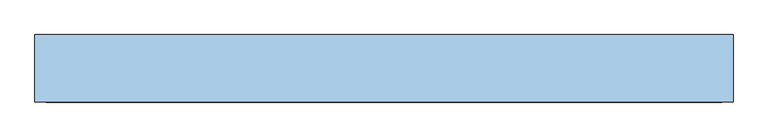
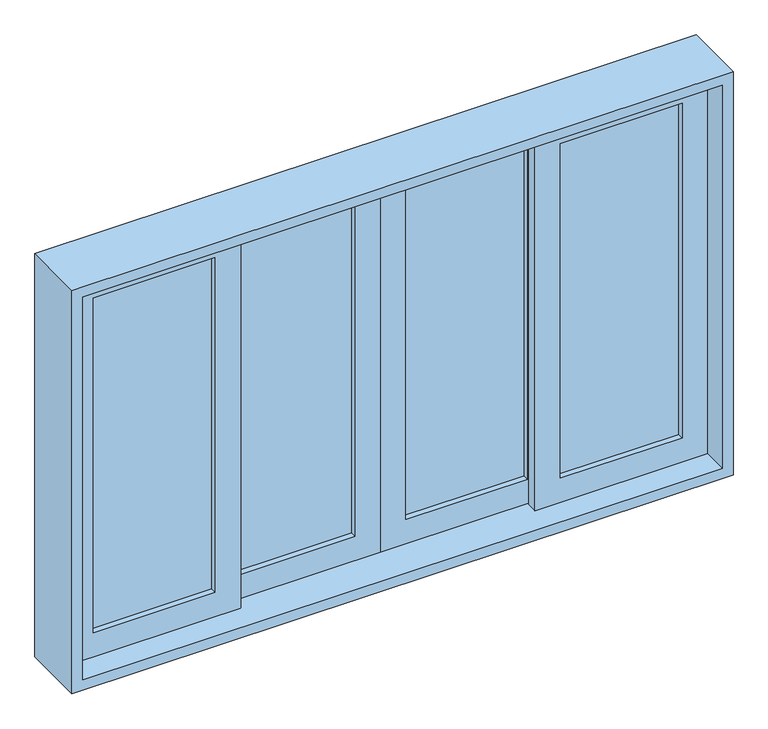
"""IFC4 building model written with IfcOpenShell, lengths in millimetres: window geometry, JANELA 4  PAINÉIS VIDRO : JANELA 4  PAINÉIS VIDRO."""

from ifc_helpers import new_model, si_unit, point, frame, frame_2d, origin, place, context, project, spatial, polyline, circle_curve, trimmed, segment, composite_curve, outline, extrude, source, transform, mapped, element, save


def window_ed8a4b66(model_context):
    return source(origin(), model_context, "Body", "SweptSolid", [
        extrude(outline(composite_curve([segment(trimmed(circle_curve(frame_2d((1390.0, -47.9376293)), 10.0), [point((1400.0, -47.9376293))], [point((1390.0, -57.9376293))], False, "CARTESIAN"), True, "CONTINUOUS"), segment(polyline([(1390.0, -57.9376293), (1210.0, -57.9376293)]), True, "CONTINUOUS"), segment(trimmed(circle_curve(frame_2d((1210.0, -47.9376293)), 10.0), [point((1210.0, -57.9376293))], [point((1200.0, -47.9376293))], False, "CARTESIAN"), True, "CONTINUOUS"), segment(polyline([(1200.0, -47.9376293), (1200.0, -27.9376293)]), True, "CONTINUOUS"), segment(trimmed(circle_curve(frame_2d((1210.0, -27.9376293)), 10.0), [point((1200.0, -27.9376293))], [point((1210.0, -17.9376293))], False, "CARTESIAN"), True, "CONTINUOUS"), segment(polyline([(1210.0, -17.9376293), (1390.0, -17.9376293)]), True, "CONTINUOUS"), segment(trimmed(circle_curve(frame_2d((1390.0, -27.9376293)), 10.0), [point((1390.0, -17.9376293))], [point((1400.0, -27.9376293))], False, "CARTESIAN"), True, "CONTINUOUS"), segment(polyline([(1400.0, -27.9376293), (1400.0, -47.9376293)]), True, "CONTINUOUS")], self_intersect=False), holes=[composite_curve([segment(polyline([(1360.0, -47.9376293), (1360.0, -27.9376293)]), True, "CONTINUOUS"), segment(trimmed(circle_curve(frame_2d((1355.0, -27.9376293)), 5.0), [point((1360.0, -27.9376293))], [point((1355.0, -22.9376293))], True, "CARTESIAN"), True, "CONTINUOUS"), segment(polyline([(1355.0, -22.9376293), (1245.0, -22.9376293)]), True, "CONTINUOUS"), segment(trimmed(circle_curve(frame_2d((1245.0, -27.9376293)), 5.0), [point((1245.0, -22.9376293))], [point((1240.0, -27.9376293))], True, "CARTESIAN"), True, "CONTINUOUS"), segment(polyline([(1240.0, -27.9376293), (1240.0, -47.9376293)]), True, "CONTINUOUS"), segment(trimmed(circle_curve(frame_2d((1245.0, -47.9376293)), 5.0), [point((1240.0, -47.9376293))], [point((1245.0, -52.9376293))], True, "CARTESIAN"), True, "CONTINUOUS"), segment(polyline([(1245.0, -52.9376293), (1355.0, -52.9376293)]), True, "CONTINUOUS"), segment(trimmed(circle_curve(frame_2d((1355.0, -47.9376293)), 5.0), [point((1355.0, -52.9376293))], [point((1360.0, -47.9376293))], True, "CARTESIAN"), True, "CONTINUOUS")], self_intersect=False), composite_curve([segment(trimmed(circle_curve(frame_2d((1385.0, -37.9376293)), 5.0), [point((1385.0, -42.9376293))], [point((1385.0, -32.9376293))], True, "CARTESIAN"), True, "CONTINUOUS"), segment(trimmed(circle_curve(frame_2d((1385.0, -37.9376293)), 5.0), [point((1385.0, -32.9376293))], [point((1385.0, -42.9376293))], True, "CARTESIAN"), True, "CONTINUOUS")], self_intersect=False), composite_curve([segment(trimmed(circle_curve(frame_2d((1215.0, -37.9376293)), 5.0), [point((1215.0, -42.9376293))], [point((1215.0, -32.9376293))], True, "CARTESIAN"), True, "CONTINUOUS"), segment(trimmed(circle_curve(frame_2d((1215.0, -37.9376293)), 5.0), [point((1215.0, -32.9376293))], [point((1215.0, -42.9376293))], True, "CARTESIAN"), True, "CONTINUOUS")], self_intersect=False)]), frame((0.0, 40.0, 0.0), z_axis=(0.0, 1.0, 0.0), x_axis=(0.0, 0.0, 1.0)), (0.0, 0.0, 1.0), 3.0),
        extrude(outline(composite_curve([segment(trimmed(circle_curve(frame_2d((1390.0, 27.9376293)), 10.0), [point((1400.0, 27.9376293))], [point((1390.0, 17.9376293))], False, "CARTESIAN"), True, "CONTINUOUS"), segment(polyline([(1390.0, 17.9376293), (1210.0, 17.9376293)]), True, "CONTINUOUS"), segment(trimmed(circle_curve(frame_2d((1210.0, 27.9376293)), 10.0), [point((1210.0, 17.9376293))], [point((1200.0, 27.9376293))], False, "CARTESIAN"), True, "CONTINUOUS"), segment(polyline([(1200.0, 27.9376293), (1200.0, 47.9376293)]), True, "CONTINUOUS"), segment(trimmed(circle_curve(frame_2d((1210.0, 47.9376293)), 10.0), [point((1200.0, 47.9376293))], [point((1210.0, 57.9376293))], False, "CARTESIAN"), True, "CONTINUOUS"), segment(polyline([(1210.0, 57.9376293), (1390.0, 57.9376293)]), True, "CONTINUOUS"), segment(trimmed(circle_curve(frame_2d((1390.0, 47.9376293)), 10.0), [point((1390.0, 57.9376293))], [point((1400.0, 47.9376293))], False, "CARTESIAN"), True, "CONTINUOUS"), segment(polyline([(1400.0, 47.9376293), (1400.0, 27.9376293)]), True, "CONTINUOUS")], self_intersect=False), holes=[composite_curve([segment(polyline([(1360.0, 27.9376293), (1360.0, 47.9376293)]), True, "CONTINUOUS"), segment(trimmed(circle_curve(frame_2d((1355.0, 47.9376293)), 5.0), [point((1360.0, 47.9376293))], [point((1355.0, 52.9376293))], True, "CARTESIAN"), True, "CONTINUOUS"), segment(polyline([(1355.0, 52.9376293), (1245.0, 52.9376293)]), True, "CONTINUOUS"), segment(trimmed(circle_curve(frame_2d((1245.0, 47.9376293)), 5.0), [point((1245.0, 52.9376293))], [point((1240.0, 47.9376293))], True, "CARTESIAN"), True, "CONTINUOUS"), segment(polyline([(1240.0, 47.9376293), (1240.0, 27.9376293)]), True, "CONTINUOUS"), segment(trimmed(circle_curve(frame_2d((1245.0, 27.9376293)), 5.0), [point((1240.0, 27.9376293))], [point((1245.0, 22.9376293))], True, "CARTESIAN"), True, "CONTINUOUS"), segment(polyline([(1245.0, 22.9376293), (1355.0, 22.9376293)]), True, "CONTINUOUS"), segment(trimmed(circle_curve(frame_2d((1355.0, 27.9376293)), 5.0), [point((1355.0, 22.9376293))], [point((1360.0, 27.9376293))], True, "CARTESIAN"), True, "CONTINUOUS")], self_intersect=False), composite_curve([segment(trimmed(circle_curve(frame_2d((1385.0, 37.9376293)), 5.0), [point((1385.0, 32.9376293))], [point((1385.0, 42.9376293))], True, "CARTESIAN"), True, "CONTINUOUS"), segment(trimmed(circle_curve(frame_2d((1385.0, 37.9376293)), 5.0), [point((1385.0, 42.9376293))], [point((1385.0, 32.9376293))], True, "CARTESIAN"), True, "CONTINUOUS")], self_intersect=False), composite_curve([segment(trimmed(circle_curve(frame_2d((1215.0, 37.9376293)), 5.0), [point((1215.0, 32.9376293))], [point((1215.0, 42.9376293))], True, "CARTESIAN"), True, "CONTINUOUS"), segment(trimmed(circle_curve(frame_2d((1215.0, 37.9376293)), 5.0), [point((1215.0, 42.9376293))], [point((1215.0, 32.9376293))], True, "CARTESIAN"), True, "CONTINUOUS")], self_intersect=False)]), frame((0.0, 40.0, 0.0), z_axis=(0.0, 1.0, 0.0), x_axis=(0.0, 0.0, 1.0)), (0.0, 0.0, 1.0), 3.0),
        extrude(outline(polyline([(-345.0, 34.0835032), (-60.0, 34.0835032), (-60.0, 29.0), (-345.0, 29.0), (-345.0, 34.0835032)])), frame((0.0, 0.0, 885.0), z_axis=(0.0, 0.0, 1.0), x_axis=(1.0, 0.0, 0.0)), (0.0, 0.0, 1.0), 830.0),
        extrude(outline(polyline([(1775.0, -405.0), (825.0, -405.0), (825.0, 0.0), (1775.0, 0.0), (1775.0, -405.0)]), holes=[polyline([(1715.0, -345.0), (1715.0, -60.0), (885.0, -60.0), (885.0, -345.0), (1715.0, -345.0)])]), frame((0.0, 15.0, 0.0), z_axis=(0.0, 1.0, 0.0), x_axis=(0.0, 0.0, 1.0)), (0.0, 0.0, 1.0), 25.0),
        extrude(outline(polyline([(-690.0, 4.0835032), (-405.0, 4.0835032), (-405.0, -1.0), (-690.0, -1.0), (-690.0, 4.0835032)])), frame((0.0, 0.0, 885.0), z_axis=(0.0, 0.0, 1.0), x_axis=(1.0, 0.0, 0.0)), (0.0, 0.0, 1.0), 830.0),
        extrude(outline(polyline([(1775.0, -750.0), (825.0, -750.0), (825.0, -345.0), (1775.0, -345.0), (1775.0, -750.0)]), holes=[polyline([(1715.0, -690.0), (1715.0, -405.0), (885.0, -405.0), (885.0, -690.0), (1715.0, -690.0)])]), frame((0.0, -15.0, 0.0), z_axis=(0.0, 1.0, 0.0), x_axis=(0.0, 0.0, 1.0)), (0.0, 0.0, 1.0), 25.0),
        extrude(outline(polyline([(345.0, 34.0835032), (345.0, 29.0), (60.0, 29.0), (60.0, 34.0835032), (345.0, 34.0835032)])), frame((0.0, 0.0, 885.0), z_axis=(0.0, 0.0, 1.0), x_axis=(1.0, 0.0, 0.0)), (0.0, 0.0, 1.0), 830.0),
        extrude(outline(polyline([(1775.0, 405.0), (1775.0, 0.0), (825.0, 0.0), (825.0, 405.0), (1775.0, 405.0)]), holes=[polyline([(1715.0, 345.0), (885.0, 345.0), (885.0, 60.0), (1715.0, 60.0), (1715.0, 345.0)])]), frame((0.0, 15.0, 0.0), z_axis=(0.0, 1.0, 0.0), x_axis=(0.0, 0.0, 1.0)), (0.0, 0.0, 1.0), 25.0),
        extrude(outline(polyline([(690.0, 4.0835032), (690.0, -1.0), (405.0, -1.0), (405.0, 4.0835032), (690.0, 4.0835032)])), frame((0.0, 0.0, 885.0), z_axis=(0.0, 0.0, 1.0), x_axis=(1.0, 0.0, 0.0)), (0.0, 0.0, 1.0), 830.0),
        extrude(outline(polyline([(1775.0, 750.0), (1775.0, 345.0), (825.0, 345.0), (825.0, 750.0), (1775.0, 750.0)]), holes=[polyline([(1715.0, 690.0), (885.0, 690.0), (885.0, 405.0), (1715.0, 405.0), (1715.0, 690.0)])]), frame((0.0, -15.0, 0.0), z_axis=(0.0, 1.0, 0.0), x_axis=(0.0, 0.0, 1.0)), (0.0, 0.0, 1.0), 25.0),
        extrude(outline(polyline([(1800.0, 775.0), (1800.0, -775.0), (800.0, -775.0), (800.0, 775.0), (1800.0, 775.0)]), holes=[polyline([(1775.0, -750.0), (1775.0, 750.0), (825.0, 750.0), (825.0, -750.0), (1775.0, -750.0)])]), frame((0.0, -75.0, 0.0), z_axis=(0.0, 1.0, 0.0), x_axis=(0.0, 0.0, 1.0)), (0.0, 0.0, 1.0), 150.0),
    ])


if __name__ == "__main__":
    model = new_model("IFC4")
    model_context = context("Model", 3, world=origin())
    ifc_project = project(units=[si_unit("LENGTHUNIT", "METRE", prefix="MILLI")], contexts=[model_context])
    site = spatial("IfcSite", under=ifc_project)
    building = spatial("IfcBuilding", under=site)
    placement = place(None, origin())
    window_shape = window_ed8a4b66(model_context)
    element("IfcWindow", 1, ObjectType="JANELA 4  PAINÉIS VIDRO : JANELA 4  PAINÉIS VIDRO", at=placement, inside=building, context=model_context, shape_type="MappedRepresentation", body=[
        mapped(window_shape, transform((0.0, 0.0, 0.0), x_axis=(1.0, 0.0, 0.0), y_axis=(0.0, 1.0, 0.0), z_axis=(0.0, 0.0, 1.0))),
    ])
    save(model, "model.ifc")
